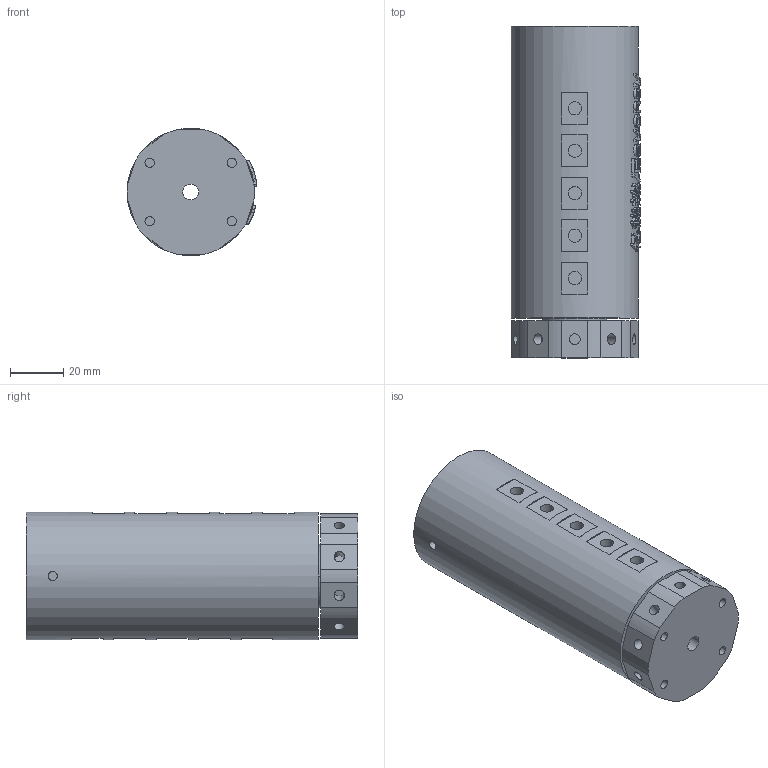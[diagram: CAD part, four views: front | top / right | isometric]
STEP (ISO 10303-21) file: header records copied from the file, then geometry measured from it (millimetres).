
FILE_DESCRIPTION(/* description */ (''),/* implementation_level */ '2;1');
FILE_NAME(/* name */ 'HQ10005.stp',/* time_stamp */ '2025-01-20T14:34:37+08:00',/* author */ (''),/* organization */ (''),/* preprocessor_version */ 'ST-DEVELOPER v16.7',/* originating_system */ 'SIEMENS PLM Software NX 12.0',/* authorisation */ '');
FILE_SCHEMA (('AUTOMOTIVE_DESIGN { 1 0 10303 214 3 1 1 1 }'));
Length unit declared in the file: millimetre
Products named in the file (1): HX056BE06534da9m
Bounding box: 48.92 x 125 x 48 mm (x, y, z)
Volume: 215716.6 mm3; surface area: 31159.5 mm2
Topology: 1 solids, 1 shells, 471 faces, 1162 edges, 781 vertices
Faces by surface type: plane 266, extrusion 93, cylinder 83, bspline 29
Full cylindrical faces by diameter (mm): 4 x10, 5 x10, 48 x1
Entity records: 32851 total; most frequent: CARTESIAN_POINT 22863, ORIENTED_EDGE 2208, DIRECTION 1587, EDGE_CURVE 1104, VERTEX_POINT 761, B_SPLINE_CURVE_WITH_KNOTS 685, AXIS2_PLACEMENT_3D 632, EDGE_LOOP 599
